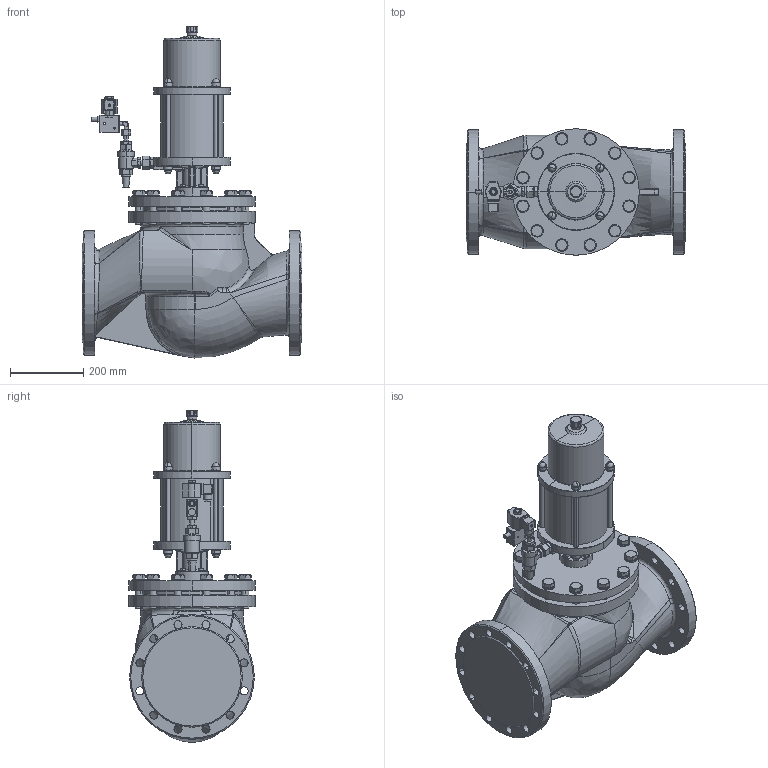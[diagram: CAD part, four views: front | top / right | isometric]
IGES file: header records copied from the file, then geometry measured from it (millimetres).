
Global section: file name: No Iges File Name specified; native system: AutoDesk Inventor R12.0; preprocessor: AutoDesk Inventor Iges Exporter R12.0; date: 20100420.074929; units: millimetre
Bounding box: 600 x 345 x 906.15 mm (x, y, z)
Volume: 54185789.6 mm3; surface area: 1658988.8 mm2
Topology: 1 solids, 1 shells, 1755 faces, 4546 edges, 2802 vertices
Faces by surface type: plane 611, bspline 362, cylinder 335, cone 226, revolution 139, torus 49, sphere 33
